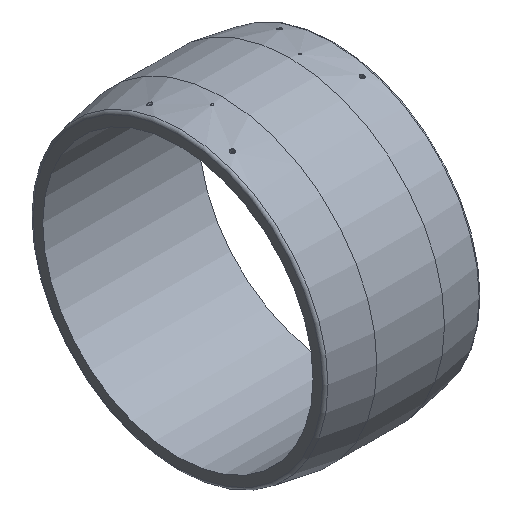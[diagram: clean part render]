
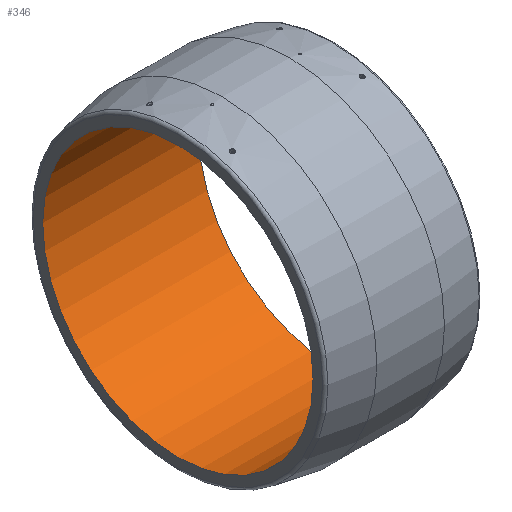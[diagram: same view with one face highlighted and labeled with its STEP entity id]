
A CAD part, isometric view. The second image highlights one B-rep face of the part: STEP entity #346.
In plain terms, the highlighted cylindrical face has radius 450 mm (diameter 900 mm), a full revolution.
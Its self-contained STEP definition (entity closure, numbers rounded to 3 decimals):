
#46=CIRCLE('',#397,450.);
#47=CIRCLE('',#399,450.);
#79=ORIENTED_EDGE('',*,*,#139,.T.);
#80=ORIENTED_EDGE('',*,*,#138,.F.);
#138=EDGE_CURVE('',#170,#170,#46,.T.);
#139=EDGE_CURVE('',#171,#171,#47,.T.);
#170=VERTEX_POINT('',#693);
#171=VERTEX_POINT('',#696);
#217=EDGE_LOOP('',(#79));
#218=EDGE_LOOP('',(#80));
#281=FACE_BOUND('',#217,.T.);
#282=FACE_BOUND('',#218,.T.);
#330=CYLINDRICAL_SURFACE('',#398,450.);
#346=ADVANCED_FACE('',(#281,#282),#330,.F.);
#397=AXIS2_PLACEMENT_3D('',#692,#461,#462);
#398=AXIS2_PLACEMENT_3D('',#694,#463,#464);
#399=AXIS2_PLACEMENT_3D('',#695,#465,#466);
#461=DIRECTION('',(-1.,0.,0.));
#462=DIRECTION('',(0.,0.,1.));
#463=DIRECTION('',(-1.,0.,0.));
#464=DIRECTION('',(0.,0.,1.));
#465=DIRECTION('',(-1.,0.,0.));
#466=DIRECTION('',(0.,0.,1.));
#692=CARTESIAN_POINT('',(260.,0.,0.));
#693=CARTESIAN_POINT('',(260.,0.,450.));
#694=CARTESIAN_POINT('',(-25.,0.,0.));
#695=CARTESIAN_POINT('',(-260.,0.,0.));
#696=CARTESIAN_POINT('',(-260.,0.,450.));
